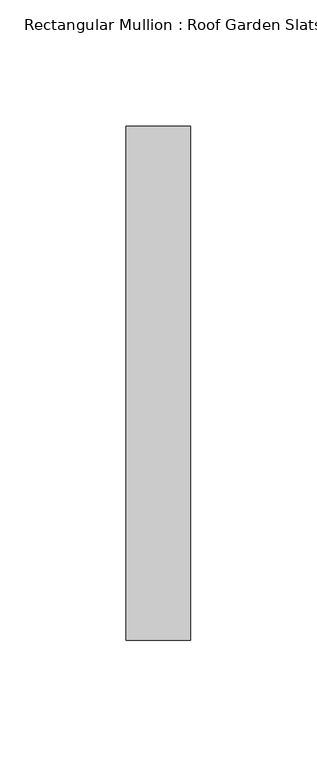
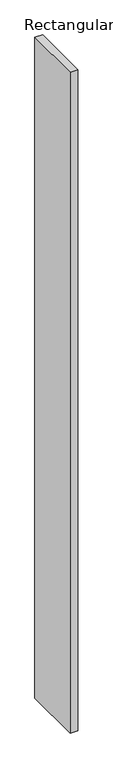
"""IFC4 building model written with IfcOpenShell, lengths in millimetres: member geometry, Rectangular Mullion : Roof Garden Slats."""

from ifc_helpers import new_model, si_unit, frame, origin, place, context, project, spatial, polyline, outline, extrude, source, transform, mapped, element, save


def rectangular_mullion_roof_garden_slats_4ba965f7(model_context):
    return source(origin(), model_context, "Body", "SweptSolid", [
        extrude(outline(polyline([(12.7, 139.7), (12.7, -63.5), (-12.7, -63.5), (-12.7, 139.7), (12.7, 139.7)])), frame((0.0, 0.0, -2332.2608074), z_axis=(0.0, 0.0, 1.0), x_axis=(1.0, 0.0, 0.0)), (0.0, 0.0, 1.0), 2332.2608074),
    ])


if __name__ == "__main__":
    model = new_model("IFC4")
    model_context = context("Model", 3, world=origin())
    ifc_project = project(units=[si_unit("LENGTHUNIT", "METRE", prefix="MILLI")], contexts=[model_context])
    site = spatial("IfcSite", under=ifc_project)
    building = spatial("IfcBuilding", under=site)
    placement = place(None, origin())
    rectangular_mullion_roof_garden_slats_shape = rectangular_mullion_roof_garden_slats_4ba965f7(model_context)
    element("IfcMember", 1, ObjectType="Rectangular Mullion : Roof Garden Slats", at=placement, inside=building, context=model_context, shape_type="MappedRepresentation", body=[
        mapped(rectangular_mullion_roof_garden_slats_shape, transform((0.0, 0.0, 0.0), x_axis=(1.0, 0.0, 0.0), y_axis=(0.0, 1.0, 0.0), z_axis=(0.0, 0.0, 1.0))),
    ])
    save(model, "model.ifc")
